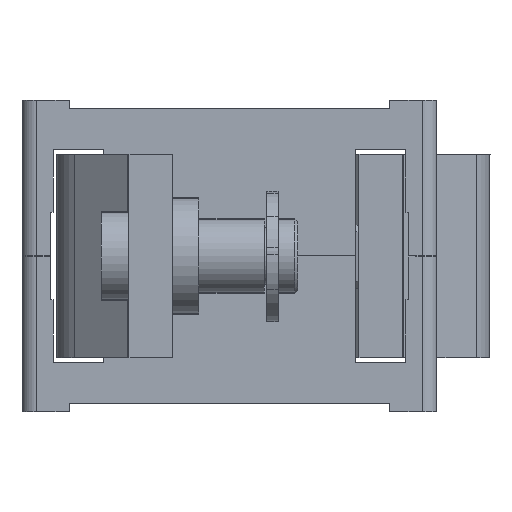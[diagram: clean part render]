
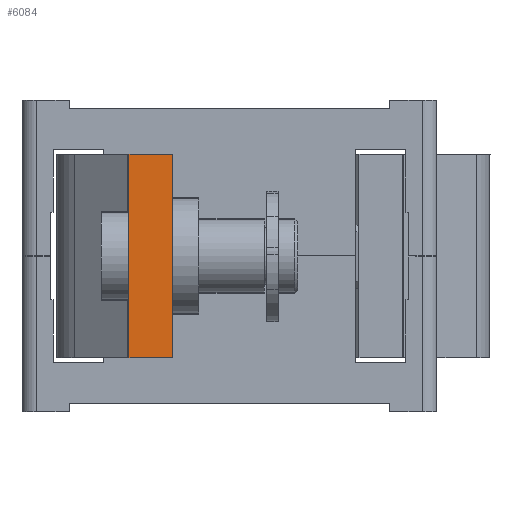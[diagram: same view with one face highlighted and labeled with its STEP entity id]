
A CAD part, left-side view. The second image highlights one B-rep face of the part: STEP entity #6084.
In plain terms, the highlighted planar face has unit normal (-1, 0, 0) as drawn and (0, 1, 0) by its records, which use the part's own axes.
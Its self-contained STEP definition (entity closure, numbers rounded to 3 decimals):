
#2771 = DIRECTION ( 'NONE',  ( 0., 0., -1. ) ) ;
#2772 = VECTOR ( 'NONE', #2771, 1000. ) ;
#2773 = CARTESIAN_POINT ( 'NONE',  ( -7., 70.781, -2. ) ) ;
#2774 = LINE ( 'NONE', #2773, #2772 ) ;
#2867 = CARTESIAN_POINT ( 'NONE',  ( -7., 70.781, -2. ) ) ;
#3351 = CARTESIAN_POINT ( 'NONE',  ( 7., 70.781, -2. ) ) ;
#3352 = DIRECTION ( 'NONE',  ( 0., 0., -1. ) ) ;
#3353 = VECTOR ( 'NONE', #3352, 1000. ) ;
#3354 = CARTESIAN_POINT ( 'NONE',  ( 7., 70.781, -2. ) ) ;
#3355 = LINE ( 'NONE', #3354, #3353 ) ;
#3413 = DIRECTION ( 'NONE',  ( -1., 0., 0. ) ) ;
#3414 = VECTOR ( 'NONE', #3413, 1000. ) ;
#3415 = CARTESIAN_POINT ( 'NONE',  ( 7., 70.781, -2. ) ) ;
#3416 = LINE ( 'NONE', #3415, #3414 ) ;
#4578 = CARTESIAN_POINT ( 'NONE',  ( -7., 70.781, -5. ) ) ;
#6084 = ADVANCED_FACE ( 'NONE', ( #8670 ), #8669, .F. ) ;
#6956 = VERTEX_POINT ( 'NONE', #9861 ) ;
#6960 = EDGE_CURVE ( 'NONE', #6956, #11417, #9923, .T. ) ;
#6962 = EDGE_LOOP ( 'NONE', ( #6971, #11432, #10595, #10590 ) ) ;
#6971 = ORIENTED_EDGE ( 'NONE', *, *, #6960, .T. ) ;
#8665 = DIRECTION ( 'NONE',  ( 0., 0., -1. ) ) ;
#8666 = DIRECTION ( 'NONE',  ( 0., -1., 0. ) ) ;
#8667 = CARTESIAN_POINT ( 'NONE',  ( 7., 70.781, -2. ) ) ;
#8668 = AXIS2_PLACEMENT_3D ( 'NONE', #8667, #8666, #8665 ) ;
#8669 = PLANE ( 'NONE',  #8668 ) ;
#8670 = FACE_OUTER_BOUND ( 'NONE', #6962, .T. ) ;
#9861 = CARTESIAN_POINT ( 'NONE',  ( 7., 70.781, -5. ) ) ;
#9920 = DIRECTION ( 'NONE',  ( -1., 0., 0. ) ) ;
#9921 = VECTOR ( 'NONE', #9920, 1000. ) ;
#9922 = CARTESIAN_POINT ( 'NONE',  ( 7., 70.781, -5. ) ) ;
#9923 = LINE ( 'NONE', #9922, #9921 ) ;
#10238 = EDGE_CURVE ( 'NONE', #10294, #11417, #2774, .T. ) ;
#10294 = VERTEX_POINT ( 'NONE', #2867 ) ;
#10590 = ORIENTED_EDGE ( 'NONE', *, *, #10591, .T. ) ;
#10591 = EDGE_CURVE ( 'NONE', #10592, #6956, #3355, .T. ) ;
#10592 = VERTEX_POINT ( 'NONE', #3351 ) ;
#10593 = EDGE_CURVE ( 'NONE', #10592, #10294, #3416, .T. ) ;
#10595 = ORIENTED_EDGE ( 'NONE', *, *, #10593, .F. ) ;
#11417 = VERTEX_POINT ( 'NONE', #4578 ) ;
#11432 = ORIENTED_EDGE ( 'NONE', *, *, #10238, .F. ) ;
